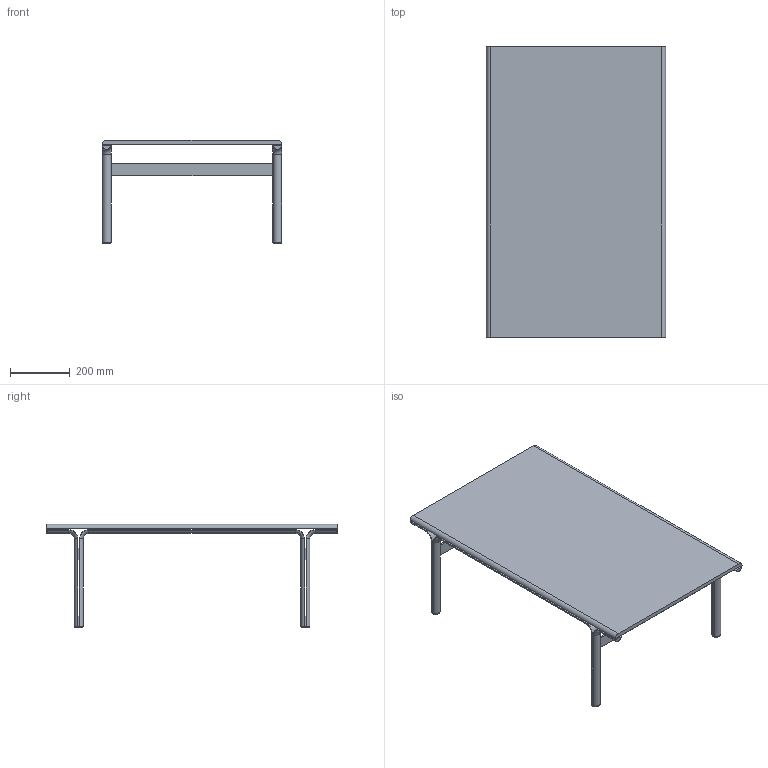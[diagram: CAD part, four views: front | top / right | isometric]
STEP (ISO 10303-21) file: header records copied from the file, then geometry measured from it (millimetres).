
FILE_DESCRIPTION(/* description */ (''),/* implementation_level */ '2;1');
FILE_NAME(/* name */ 'FRAMA_Union-Side table-3D.step',/* time_stamp */ '2025-11-07T16:47:15+01:00',/* author */ (''),/* organization */ (''),/* preprocessor_version */ 'ST-DEVELOPER v20.1',/* originating_system */ 'Autodesk Translation Framework v14.17.0.0',/* authorisation */ '');
FILE_SCHEMA (('AUTOMOTIVE_DESIGN { 1 0 10303 214 3 1 1 }'));
Length unit declared in the file: millimetre
Products named in the file (14): Coffee_table_972_x_600; outer_back_right; foot_back_right; horizontal_back; central_leg_left; tabletop_solid_edge_left; outer_back_right(Mirror); foot_back_right(Mirror); horizontal_back(Mirror); outer_back_right(Mirror) (1); foot_back_right(Mirror) (1); central_leg_left(Mirror); outer_back_right(Mirror)(Mirror); foot_back_right(Mirror)(Mirror)
Assembly tree (13 placements, depth 2):
  Coffee_table_972_x_600
    outer_back_right
    foot_back_right
    horizontal_back
    central_leg_left
    tabletop_solid_edge_left
    outer_back_right(Mirror)
    foot_back_right(Mirror)
    horizontal_back(Mirror)
    outer_back_right(Mirror) (1)
    foot_back_right(Mirror) (1)
    central_leg_left(Mirror)
    outer_back_right(Mirror)(Mirror)
    foot_back_right(Mirror)(Mirror)
Bounding box: 600.08 x 970 x 345.35 mm (x, y, z)
Volume: 8960793.3 mm3; surface area: 1620912 mm2
Topology: 13 solids, 13 shells, 178 faces, 364 edges, 216 vertices
Faces by surface type: plane 70, cylinder 68, torus 40
Full cylindrical faces by diameter (mm): 26 x4
Entity records: 5096 total; most frequent: DIRECTION 958, CARTESIAN_POINT 785, ORIENTED_EDGE 728, AXIS2_PLACEMENT_3D 389, EDGE_CURVE 364, VERTEX_POINT 216, CIRCLE 184, EDGE_LOOP 182
